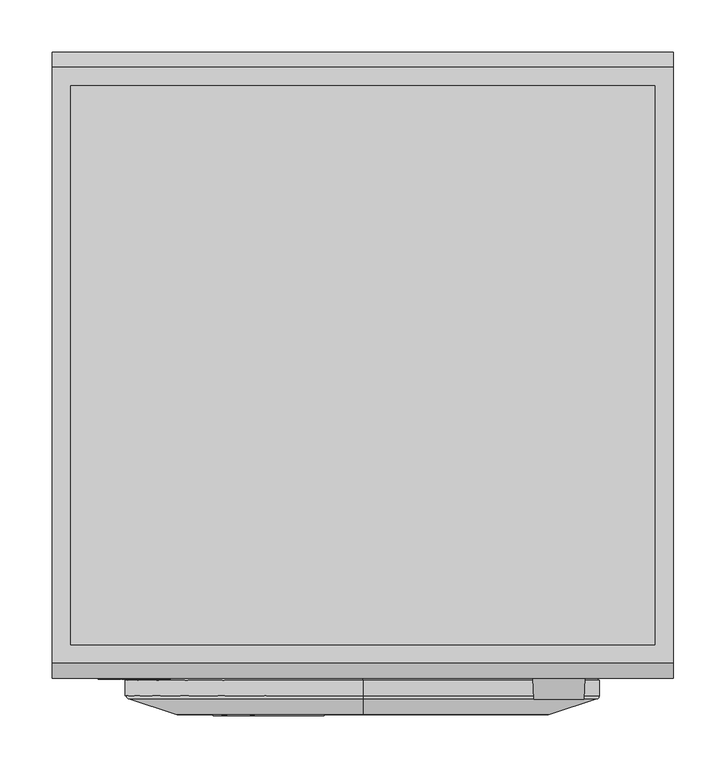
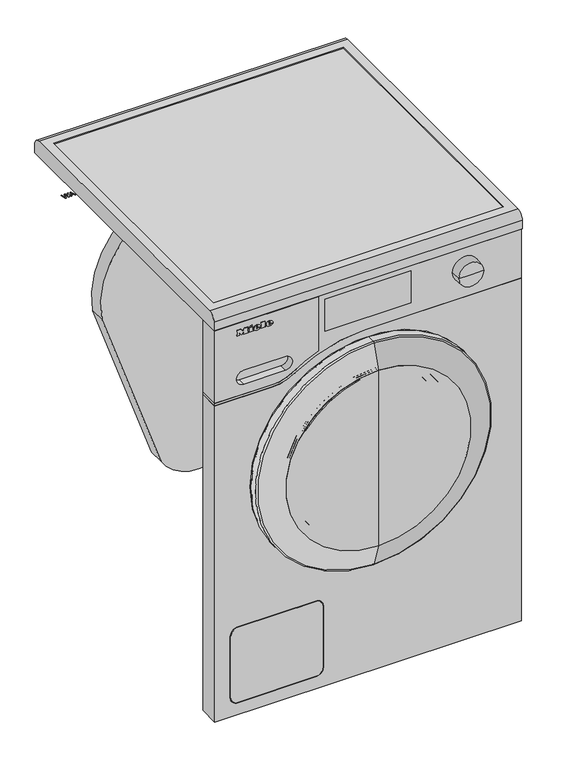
"""IFC4 building model written with IfcOpenShell, lengths in millimetres: proxy geometry, 12721200_GB_WEA125WCS_LW : 11EA1251_GB_12721200_WEA125WCS_LW."""

from ifc_helpers import new_model, si_unit, point, frame, frame_2d, origin, place, context, project, spatial, polyline, circle_curve, ellipse_curve, trimmed, segment, composite_curve, outline, extrude, source, transform, mapped, element, save
from ifc_brep_helpers import plane_surface, cylinder_surface, revolved_surface, extruded_surface, advanced_brep


def specialty_equipment_79eebb6a(model_context):
    return source(origin(), model_context, "Body", "SolidModel", [
        advanced_brep(
        [(-192.212, -601.0, 794.7018), (-192.212, -601.0, 795.8532), (-184.5854, -601.0, 795.8532), (-197.855, -601.0, 795.8532), (-194.72, -601.0, 792.0), (-184.7792, -601.0, 794.7018), (-188.222, -601.0, 794.7018), (-190.9352, -601.0, 793.425), (-192.212, -601.0, 797.3124), (-192.212, -601.0, 798.555), (-190.2626, -601.0, 798.555), (-190.2626, -601.0, 797.3124), (-192.212, -600.0, 794.7018), (-190.9352, -600.0, 793.425), (-188.222, -600.0, 794.7018), (-184.7792, -600.0, 794.7018), (-194.72, -600.0, 792.0), (-197.855, -600.0, 795.8532), (-184.5854, -600.0, 795.8532), (-192.212, -600.0, 795.8532), (-192.212, -600.0, 797.3124), (-190.2626, -600.0, 797.3124), (-190.2626, -600.0, 798.555), (-192.212, -600.0, 798.555)],
        [
            (0, 1),
            (1, 2),
            (2, 3, ellipse_curve(frame((-191.2202, -601.0, 795.8532), z_axis=(0.0, -1.0, 0.0), x_axis=(-1.0, 0.0, 0.0)), 6.6348, 5.4834)),
            (3, 4, circle_curve(frame((-193.4431378, -601.0, 796.2408), z_axis=(0.0, -1.0, 0.0), x_axis=(0.0, 0.0, -1.0)), 4.4288556)),
            (4, 5, circle_curve(frame((-191.3530192, -601.0, 799.2504), z_axis=(0.0, -1.0, 0.0), x_axis=(0.0, 0.0, -1.0)), 7.9940516)),
            (5, 6),
            (6, 7, circle_curve(frame((-190.3779412, -601.0, 795.762), z_axis=(0.0, 1.0, 0.0), x_axis=(0.0, 0.0, -1.0)), 2.4025208)),
            (7, 0, circle_curve(frame((-190.9352, -601.0, 794.7018), z_axis=(0.0, 1.0, 0.0), x_axis=(0.0, 0.0, -1.0)), 1.2768)),
            (8, 9),
            (9, 10, circle_curve(frame((-191.2373, -601.0, 798.555), z_axis=(0.0, 1.0, 0.0), x_axis=(0.0, 0.0, -1.0)), 0.9747)),
            (10, 11),
            (11, 8),
            (12, 13, circle_curve(frame((-190.9352, -600.0, 794.7018), z_axis=(0.0, -1.0, 0.0), x_axis=(0.0, 0.0, -1.0)), 1.2768)),
            (13, 14, circle_curve(frame((-190.3779412, -600.0, 795.762), z_axis=(0.0, -1.0, 0.0), x_axis=(0.0, 0.0, -1.0)), 2.4025208)),
            (14, 15),
            (15, 16, circle_curve(frame((-191.3530192, -600.0, 799.2504), z_axis=(0.0, 1.0, 0.0), x_axis=(0.0, 0.0, -1.0)), 7.9940516)),
            (16, 17, circle_curve(frame((-193.4431378, -600.0, 796.2408), z_axis=(0.0, 1.0, 0.0), x_axis=(0.0, 0.0, -1.0)), 4.4288556)),
            (17, 18, ellipse_curve(frame((-191.2202, -600.0, 795.8532), z_axis=(0.0, 1.0, 0.0), x_axis=(-1.0, 0.0, 0.0)), 6.6348, 5.4834)),
            (18, 19),
            (19, 12),
            (20, 21),
            (21, 22),
            (22, 23, circle_curve(frame((-191.2373, -600.0, 798.555), z_axis=(0.0, -1.0, 0.0), x_axis=(0.0, 0.0, -1.0)), 0.9747)),
            (23, 20),
            (0, 12),
            (19, 1),
            (18, 2),
            (5, 15),
            (14, 6),
            (17, 3),
            (13, 7),
            (16, 4),
            (8, 20),
            (23, 9),
            (22, 10),
            (21, 11),
        ],
        [
            plane_surface(frame((-192.212, -601.0, 795.8532), z_axis=(0.0, -1.0, 0.0), x_axis=(0.0, 0.0, 1.0))),
            plane_surface(frame((-192.212, -600.0, 795.8532), z_axis=(0.0, 1.0, 0.0), x_axis=(0.0, 0.0, -1.0))),
            plane_surface(frame((-192.212, -601.0, 794.7018), z_axis=(1.0, 0.0, 0.0), x_axis=(0.0, 1.0, 0.0))),
            plane_surface(frame((-192.212, -601.0, 795.8532), z_axis=(0.0, 0.0, -1.0), x_axis=(0.0, 1.0, 0.0))),
            plane_surface(frame((-184.7792, -601.0, 794.7018), z_axis=(0.0, 0.0, 1.0), x_axis=(0.0, 1.0, 0.0))),
            extruded_surface(trimmed(ellipse_curve(frame((-191.2202, -599.0, 795.8532), z_axis=(0.0, -1.0, 0.0), x_axis=(-1.0, 0.0, 0.0)), 6.6348, 5.4834), [point((-184.5854, -599.0, 795.8532))], [point((-197.855, -599.0, 795.8532))], True, "CARTESIAN"), (0.0, -1.0, 0.0), 1.0),
            revolved_surface(polyline([(-190.3779412, -600.0, 793.3594791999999), (-190.3779412, -601.0, 793.3594791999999)]), (-190.3779412, -600.0, 795.762), (0.0, 1.0, 0.0)),
            revolved_surface(polyline([(-190.9352, -600.0, 793.4250000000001), (-190.9352, -601.0, 793.4250000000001)]), (-190.9352, -600.0, 794.7018), (0.0, 1.0, 0.0)),
            cylinder_surface(frame((-193.4431378, -600.0, 796.2408), z_axis=(0.0, -1.0, 0.0), x_axis=(0.0, 0.0, -1.0)), 4.4288556),
            cylinder_surface(frame((-191.3530192, -600.0, 799.2504), z_axis=(0.0, -1.0, 0.0), x_axis=(0.0, 0.0, -1.0)), 7.9940516),
            plane_surface(frame((-192.212, -601.0, 797.3124), z_axis=(1.0, 0.0, 0.0), x_axis=(0.0, 1.0, 0.0))),
            revolved_surface(polyline([(-191.2373, -600.0, 797.5803), (-191.2373, -601.0, 797.5803)]), (-191.2373, -600.0, 798.555), (0.0, 1.0, 0.0)),
            plane_surface(frame((-190.2626, -601.0, 798.555), z_axis=(-1.0, 0.0, 0.0), x_axis=(0.0, 1.0, 0.0))),
            plane_surface(frame((-190.2626, -601.0, 797.3124), z_axis=(0.0, 0.0, 1.0), x_axis=(0.0, 1.0, 0.0))),
        ],
        [
            (0, [[1, 2, 3, 4, 5, 6, 7, 8], [9, 10, 11, 12]]),
            (1, [[13, 14, 15, 16, 17, 18, 19, 20], [21, 22, 23, 24]]),
            (2, [[-1, 25, -20, 26]]),
            (3, [[-2, -26, -19, 27]]),
            (4, [[-6, 28, -15, 29]]),
            (5, [[-3, -27, -18, 30]]),
            (6, [[-7, -29, -14, 31]]),
            (7, [[-8, -31, -13, -25]]),
            (8, [[-4, -30, -17, 32]]),
            (9, [[-5, -32, -16, -28]]),
            (10, [[-9, 33, -24, 34]]),
            (11, [[-10, -34, -23, 35]]),
            (12, [[-11, -35, -22, 36]]),
            (13, [[-12, -36, -21, -33]]),
        ],
    ),
        advanced_brep(
        [(-216.0038, -601.0, 794.7018), (-216.0038, -601.0, 795.8532), (-208.3772, -601.0, 795.8532), (-221.6468, -601.0, 795.8532), (-218.5118, -601.0, 792.0), (-208.571, -601.0, 794.7018), (-212.0138, -601.0, 794.7018), (-214.727, -601.0, 793.425), (-216.0038, -601.0, 797.3124), (-216.0038, -601.0, 798.555), (-214.0544, -601.0, 798.555), (-214.0544, -601.0, 797.3124), (-216.0038, -600.0, 794.7018), (-214.727, -600.0, 793.425), (-212.0138, -600.0, 794.7018), (-208.571, -600.0, 794.7018), (-218.5118, -600.0, 792.0), (-221.6468, -600.0, 795.8532), (-208.3772, -600.0, 795.8532), (-216.0038, -600.0, 795.8532), (-216.0038, -600.0, 797.3124), (-214.0544, -600.0, 797.3124), (-214.0544, -600.0, 798.555), (-216.0038, -600.0, 798.555)],
        [
            (0, 1),
            (1, 2),
            (2, 3, ellipse_curve(frame((-215.012, -601.0, 795.8532), z_axis=(0.0, -1.0, 0.0), x_axis=(-1.0, 0.0, 0.0)), 6.6348, 5.4834)),
            (3, 4, circle_curve(frame((-217.2349378, -601.0, 796.2408), z_axis=(0.0, -1.0, 0.0), x_axis=(0.0, 0.0, -1.0)), 4.4288556)),
            (4, 5, circle_curve(frame((-215.1448192, -601.0, 799.2504), z_axis=(0.0, -1.0, 0.0), x_axis=(0.0, 0.0, -1.0)), 7.9940516)),
            (5, 6),
            (6, 7, circle_curve(frame((-214.1697412, -601.0, 795.762), z_axis=(0.0, 1.0, 0.0), x_axis=(0.0, 0.0, -1.0)), 2.4025208)),
            (7, 0, circle_curve(frame((-214.727, -601.0, 794.7018), z_axis=(0.0, 1.0, 0.0), x_axis=(0.0, 0.0, -1.0)), 1.2768)),
            (8, 9),
            (9, 10, circle_curve(frame((-215.0291, -601.0, 798.555), z_axis=(0.0, 1.0, 0.0), x_axis=(0.0, 0.0, -1.0)), 0.9747)),
            (10, 11),
            (11, 8),
            (12, 13, circle_curve(frame((-214.727, -600.0, 794.7018), z_axis=(0.0, -1.0, 0.0), x_axis=(0.0, 0.0, -1.0)), 1.2768)),
            (13, 14, circle_curve(frame((-214.1697412, -600.0, 795.762), z_axis=(0.0, -1.0, 0.0), x_axis=(0.0, 0.0, -1.0)), 2.4025208)),
            (14, 15),
            (15, 16, circle_curve(frame((-215.1448192, -600.0, 799.2504), z_axis=(0.0, 1.0, 0.0), x_axis=(0.0, 0.0, -1.0)), 7.9940516)),
            (16, 17, circle_curve(frame((-217.2349378, -600.0, 796.2408), z_axis=(0.0, 1.0, 0.0), x_axis=(0.0, 0.0, -1.0)), 4.4288556)),
            (17, 18, ellipse_curve(frame((-215.012, -600.0, 795.8532), z_axis=(0.0, 1.0, 0.0), x_axis=(-1.0, 0.0, 0.0)), 6.6348, 5.4834)),
            (18, 19),
            (19, 12),
            (20, 21),
            (21, 22),
            (22, 23, circle_curve(frame((-215.0291, -600.0, 798.555), z_axis=(0.0, -1.0, 0.0), x_axis=(0.0, 0.0, -1.0)), 0.9747)),
            (23, 20),
            (0, 12),
            (19, 1),
            (18, 2),
            (5, 15),
            (14, 6),
            (17, 3),
            (13, 7),
            (16, 4),
            (8, 20),
            (23, 9),
            (22, 10),
            (21, 11),
        ],
        [
            plane_surface(frame((-216.0038, -601.0, 795.8532), z_axis=(0.0, -1.0, 0.0), x_axis=(0.0, 0.0, 1.0))),
            plane_surface(frame((-216.0038, -600.0, 795.8532), z_axis=(0.0, 1.0, 0.0), x_axis=(0.0, 0.0, -1.0))),
            plane_surface(frame((-216.0038, -601.0, 794.7018), z_axis=(1.0, 0.0, 0.0), x_axis=(0.0, 1.0, 0.0))),
            plane_surface(frame((-216.0038, -601.0, 795.8532), z_axis=(0.0, 0.0, -1.0), x_axis=(0.0, 1.0, 0.0))),
            plane_surface(frame((-208.571, -601.0, 794.7018), z_axis=(0.0, 0.0, 1.0), x_axis=(0.0, 1.0, 0.0))),
            extruded_surface(trimmed(ellipse_curve(frame((-215.012, -599.0, 795.8532), z_axis=(0.0, -1.0, 0.0), x_axis=(-1.0, 0.0, 0.0)), 6.6348, 5.4834), [point((-208.3772, -599.0, 795.8532))], [point((-221.6468, -599.0, 795.8532))], True, "CARTESIAN"), (0.0, -1.0, 0.0), 1.0),
            revolved_surface(polyline([(-214.1697412, -600.0, 793.3594791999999), (-214.1697412, -601.0, 793.3594791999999)]), (-214.1697412, -600.0, 795.762), (0.0, 1.0, 0.0)),
            revolved_surface(polyline([(-214.727, -600.0, 793.4250000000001), (-214.727, -601.0, 793.4250000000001)]), (-214.727, -600.0, 794.7018), (0.0, 1.0, 0.0)),
            cylinder_surface(frame((-217.2349378, -600.0, 796.2408), z_axis=(0.0, -1.0, 0.0), x_axis=(0.0, 0.0, -1.0)), 4.4288556),
            cylinder_surface(frame((-215.1448192, -600.0, 799.2504), z_axis=(0.0, -1.0, 0.0), x_axis=(0.0, 0.0, -1.0)), 7.9940516),
            plane_surface(frame((-216.0038, -601.0, 797.3124), z_axis=(1.0, 0.0, 0.0), x_axis=(0.0, 1.0, 0.0))),
            revolved_surface(polyline([(-215.0291, -600.0, 797.5803), (-215.0291, -601.0, 797.5803)]), (-215.0291, -600.0, 798.555), (0.0, 1.0, 0.0)),
            plane_surface(frame((-214.0544, -601.0, 798.555), z_axis=(-1.0, 0.0, 0.0), x_axis=(0.0, 1.0, 0.0))),
            plane_surface(frame((-214.0544, -601.0, 797.3124), z_axis=(0.0, 0.0, 1.0), x_axis=(0.0, 1.0, 0.0))),
        ],
        [
            (0, [[1, 2, 3, 4, 5, 6, 7, 8], [9, 10, 11, 12]]),
            (1, [[13, 14, 15, 16, 17, 18, 19, 20], [21, 22, 23, 24]]),
            (2, [[-1, 25, -20, 26]]),
            (3, [[-2, -26, -19, 27]]),
            (4, [[-6, 28, -15, 29]]),
            (5, [[-3, -27, -18, 30]]),
            (6, [[-7, -29, -14, 31]]),
            (7, [[-8, -31, -13, -25]]),
            (8, [[-4, -30, -17, 32]]),
            (9, [[-5, -32, -16, -28]]),
            (10, [[-9, 33, -24, 34]]),
            (11, [[-10, -34, -23, 35]]),
            (12, [[-11, -35, -22, 36]]),
            (13, [[-12, -36, -21, -33]]),
        ],
    ),
        extrude(outline(polyline([(802.7274, -228.464), (800.8806, -227.5976), (802.6818, -223.733), (804.5286, -224.588), (802.7274, -228.464)])), frame((0.0, -601.0, 0.0), z_axis=(0.0, 1.0, 0.0), x_axis=(0.0, 0.0, 1.0)), (0.0, 0.0, 1.0), 1.0),
        extrude(outline(polyline([(800.6298, -231.2798), (798.5892, -231.2798), (798.5892, -229.9232), (793.9152, -229.9232), (793.9152, -231.2798), (792.0, -231.2798), (792.0, -222.2852), (793.9152, -222.2852), (793.9152, -223.6076), (800.6298, -223.6076), (800.6298, -231.2798)])), frame((0.0, -601.0, 0.0), z_axis=(0.0, 1.0, 0.0), x_axis=(0.0, 0.0, 1.0)), (0.0, 0.0, 1.0), 1.0),
        extrude(outline(polyline([(801.5418, -207.7388), (801.5418, -206.3708), (793.9152, -206.3708), (793.9152, -207.7388), (792.0, -207.7388), (792.0, -198.4934), (793.9152, -198.4934), (793.9152, -199.8956), (803.4, -199.8956), (803.4, -207.7388), (801.5418, -207.7388)])), frame((0.0, -601.0, 0.0), z_axis=(0.0, 1.0, 0.0), x_axis=(0.0, 0.0, 1.0)), (0.0, 0.0, 1.0), 1.0),
        extrude(outline(polyline([(801.5418, -254.0), (801.5418, -252.6206), (793.9152, -252.6206), (793.9152, -254.0), (792.0, -254.0), (792.0, -248.984), (793.9152, -248.984), (793.9152, -250.352), (798.7429247, -250.352), (792.0, -245.2562), (798.9402223, -240.1376), (793.9152, -240.1376), (793.9152, -241.5398), (792.0, -241.5398), (792.0, -232.4426), (793.9152, -232.4426), (793.9152, -233.8904), (801.5418, -233.8904), (801.5418, -232.4426), (803.4, -232.4426), (803.4, -239.3852), (799.125, -242.714), (803.4, -246.0542), (803.4, -254.0), (801.5418, -254.0)])), frame((0.0, -601.0, 0.0), z_axis=(0.0, 1.0, 0.0), x_axis=(0.0, 0.0, 1.0)), (0.0, 0.0, 1.0), 1.0),
        extrude(outline(composite_curve([segment(trimmed(circle_curve(frame_2d((475.0, 0.0)), 179.0077488), [point((650.0572384, -37.3996979))], [point((581.8669772, -143.6078804))], False, "CARTESIAN"), True, "CONTINUOUS"), segment(polyline([(581.8669772, -143.6078804), (580.6729844, -142.0033925)]), True, "CONTINUOUS"), segment(trimmed(circle_curve(frame_2d((475.0, 0.0)), 177.0077488), [point((580.6729844, -142.0033925))], [point((648.1013763, -36.9818423))], True, "CARTESIAN"), True, "CONTINUOUS"), segment(polyline([(648.1013763, -36.9818423), (650.0572384, -37.3996979)]), True, "CONTINUOUS")], self_intersect=False)), frame((0.0, -636.0, 0.0), z_axis=(0.0, 1.0, 0.0), x_axis=(0.0, 0.0, 1.0)), (0.0, 0.0, 1.0), 1.0),
        advanced_brep(
        [(0.0, -610.8709778, 313.0), (0.0, -610.8709778, 637.0), (0.0, -592.0, 637.0), (0.0, -592.0, 313.0), (0.0, -628.93239, 652.7005461), (0.0, -628.93239, 297.2994539), (0.0, -630.9005671, 650.4364173), (0.0, -630.9005671, 299.5635827), (0.0, -592.0, 326.0), (0.0, -592.0, 624.0), (0.0, -589.0, 326.0), (0.0, -589.0, 624.0), (0.0, -589.0, 475.0), (0.0, -635.0, 296.0), (0.0, -635.0, 654.0), (0.0, -635.0, 475.0)],
        [
            (0, 1, circle_curve(frame((0.0, -610.8709778, 475.0), z_axis=(0.0, 1.0, 0.0), x_axis=(0.0, 0.0, 1.0)), 162.0)),
            (1, 2),
            (2, 3, circle_curve(frame((0.0, -592.0, 475.0), z_axis=(0.0, -1.0, 0.0), x_axis=(0.0, 0.0, 1.0)), 162.0)),
            (3, 0),
            (4, 5, circle_curve(frame((0.0, -628.93239, 475.0), z_axis=(0.0, 1.0, 0.0), x_axis=(0.0, 0.0, 1.0)), 177.7005461)),
            (5, 0),
            (0, 1, circle_curve(frame((0.0, -610.8709778, 475.0), z_axis=(0.0, -1.0, 0.0), x_axis=(0.0, 0.0, 1.0)), 162.0)),
            (1, 4),
            (6, 7, circle_curve(frame((0.0, -630.9005671, 475.0), z_axis=(0.0, 1.0, 0.0), x_axis=(0.0, 0.0, 1.0)), 175.4364173)),
            (7, 5),
            (4, 6),
            (2, 3, circle_curve(frame((0.0, -592.0, 475.0), z_axis=(0.0, 1.0, 0.0), x_axis=(0.0, 0.0, 1.0)), 162.0)),
            (3, 8),
            (8, 9, circle_curve(frame((0.0, -592.0, 475.0), z_axis=(0.0, -1.0, 0.0), x_axis=(0.0, 0.0, 1.0)), 149.0)),
            (9, 2),
            (10, 11, circle_curve(frame((0.0, -589.0, 475.0), z_axis=(0.0, 1.0, 0.0), x_axis=(0.0, 0.0, 1.0)), 149.0)),
            (11, 12),
            (12, 10),
            (8, 9, circle_curve(frame((0.0, -592.0, 475.0), z_axis=(0.0, 1.0, 0.0), x_axis=(0.0, 0.0, 1.0)), 149.0)),
            (9, 11),
            (10, 8),
            (13, 14, circle_curve(frame((0.0, -635.0, 475.0), z_axis=(0.0, 1.0, 0.0), x_axis=(0.0, 0.0, 1.0)), 179.0)),
            (14, 6),
            (6, 7, circle_curve(frame((0.0, -630.9005671, 475.0), z_axis=(0.0, -1.0, 0.0), x_axis=(0.0, 0.0, 1.0)), 175.4364173)),
            (7, 13),
            (14, 13, circle_curve(frame((0.0, -635.0, 475.0), z_axis=(0.0, 1.0, 0.0), x_axis=(0.0, 0.0, 1.0)), 179.0)),
            (15, 14),
            (13, 15),
            (11, 10, circle_curve(frame((0.0, -589.0, 475.0), z_axis=(0.0, 1.0, 0.0), x_axis=(0.0, 0.0, 1.0)), 149.0)),
            (5, 4, circle_curve(frame((0.0, -628.93239, 475.0), z_axis=(0.0, 1.0, 0.0), x_axis=(0.0, 0.0, 1.0)), 177.7005461)),
        ],
        [
            cylinder_surface(frame((0.0, -2342.7556811, 475.0), z_axis=(0.0, -1.0, 0.0), x_axis=(0.0, 0.0, 1.0)), 162.0),
            revolved_surface(polyline([(0.0, -610.8709778, 637.0), (0.0, -628.93239, 652.7005461)]), (0.0, -2342.7556811, 475.0), (0.0, -1.0, 0.0)),
            revolved_surface(polyline([(0.0, -628.93239, 652.7005461), (0.0, -630.9005671, 650.4364173)]), (0.0, -2342.7556811, 475.0), (0.0, -1.0, 0.0)),
            plane_surface(frame((0.0, -592.0, 475.0), z_axis=(0.0, 1.0, 0.0), x_axis=(0.0, 0.0, 1.0))),
            plane_surface(frame((0.0, -589.0, 475.0), z_axis=(0.0, 1.0, 0.0), x_axis=(0.0, 0.0, 1.0))),
            cylinder_surface(frame((0.0, -2342.7556811, 475.0), z_axis=(0.0, -1.0, 0.0), x_axis=(0.0, 0.0, 1.0)), 149.0),
            revolved_surface(polyline([(0.0, -630.9005671, 650.4364173), (0.0, -635.0, 654.0)]), (0.0, -2342.7556811, 475.0), (0.0, -1.0, 0.0)),
            plane_surface(frame((0.0, -635.0, 475.0), z_axis=(0.0, -1.0, 0.0), x_axis=(0.0, 0.0, 1.0))),
        ],
        [
            (0, [[1, 2, 3, 4]]),
            (1, [[5, 6, 7, 8]]),
            (2, [[9, 10, -5, 11]]),
            (3, [[12, 13, 14, 15]]),
            (4, [[16, 17, 18]]),
            (5, [[19, 20, -16, 21]]),
            (6, [[22, 23, 24, 25]]),
            (6, [[26, -25, -9, -23]]),
            (7, [[27, -22, 28]]),
            (7, [[-28, -26, -27]]),
            (4, [[29, -18, -17]]),
            (5, [[-14, -21, -29, -20]]),
            (3, [[-3, -15, -19, -13]]),
            (0, [[-7, -4, -12, -2]]),
            (1, [[30, -8, -1, -6]]),
            (2, [[-24, -11, -30, -10]]),
        ],
    ),
        advanced_brep(
        [(0.0, -602.0, 313.0), (0.0, -602.0, 637.0), (0.0, -602.0, 702.0), (0.0, -602.0, 248.0), (0.0, -592.0, 326.0), (0.0, -592.0, 624.0), (0.0, -592.0, 637.0), (0.0, -592.0, 313.0), (0.0, -589.0, 326.0), (0.0, -589.0, 624.0), (0.0, -589.0, 254.0), (0.0, -589.0, 696.0)],
        [
            (0, 1, circle_curve(frame((0.0, -602.0, 475.0), z_axis=(0.0, 1.0, 0.0), x_axis=(0.0, 0.0, 1.0)), 162.0)),
            (1, 2),
            (2, 3, circle_curve(frame((0.0, -602.0, 475.0), z_axis=(0.0, -1.0, 0.0), x_axis=(0.0, 0.0, 1.0)), 227.0)),
            (3, 0),
            (4, 5, circle_curve(frame((0.0, -592.0, 475.0), z_axis=(0.0, 1.0, 0.0), x_axis=(0.0, 0.0, 1.0)), 149.0)),
            (5, 6),
            (6, 7, circle_curve(frame((0.0, -592.0, 475.0), z_axis=(0.0, -1.0, 0.0), x_axis=(0.0, 0.0, 1.0)), 162.0)),
            (7, 4),
            (5, 4, circle_curve(frame((0.0, -592.0, 475.0), z_axis=(0.0, 1.0, 0.0), x_axis=(0.0, 0.0, 1.0)), 149.0)),
            (7, 6, circle_curve(frame((0.0, -592.0, 475.0), z_axis=(0.0, -1.0, 0.0), x_axis=(0.0, 0.0, 1.0)), 162.0)),
            (8, 9, circle_curve(frame((0.0, -589.0, 475.0), z_axis=(0.0, 1.0, 0.0), x_axis=(0.0, 0.0, 1.0)), 149.0)),
            (9, 5),
            (4, 8),
            (2, 3, circle_curve(frame((0.0, -602.0, 475.0), z_axis=(0.0, 1.0, 0.0), x_axis=(0.0, 0.0, 1.0)), 227.0)),
            (3, 10),
            (10, 11, circle_curve(frame((0.0, -589.0, 475.0), z_axis=(0.0, -1.0, 0.0), x_axis=(0.0, 0.0, 1.0)), 221.0)),
            (11, 2),
            (10, 11, circle_curve(frame((0.0, -589.0, 475.0), z_axis=(0.0, 1.0, 0.0), x_axis=(0.0, 0.0, 1.0)), 221.0)),
            (11, 9),
            (8, 10),
            (8, 9, circle_curve(frame((0.0, -589.0, 475.0), z_axis=(0.0, -1.0, 0.0), x_axis=(0.0, 0.0, 1.0)), 149.0)),
            (1, 0, circle_curve(frame((0.0, -602.0, 475.0), z_axis=(0.0, 1.0, 0.0), x_axis=(0.0, 0.0, 1.0)), 162.0)),
            (6, 1),
            (0, 7),
        ],
        [
            plane_surface(frame((0.0, -602.0, 475.0), z_axis=(0.0, -1.0, 0.0), x_axis=(0.0, 0.0, 1.0))),
            plane_surface(frame((0.0, -592.0, 475.0), z_axis=(0.0, -1.0, 0.0), x_axis=(0.0, 0.0, 1.0))),
            revolved_surface(polyline([(0.0, -592.0, 624.0), (0.0, -589.0, 624.0)]), (0.0, -2342.7556811, 475.0), (0.0, -1.0, 0.0)),
            revolved_surface(polyline([(0.0, -589.0, 696.0), (0.0, -602.0, 702.0)]), (0.0, -2342.7556811, 475.0), (0.0, -1.0, 0.0)),
            plane_surface(frame((0.0, -589.0, 475.0), z_axis=(0.0, 1.0, 0.0), x_axis=(0.0, 0.0, 1.0))),
            revolved_surface(polyline([(0.0, -602.0, 637.0), (0.0, -592.0, 637.0)]), (0.0, -2342.7556811, 475.0), (0.0, -1.0, 0.0)),
        ],
        [
            (0, [[1, 2, 3, 4]]),
            (1, [[5, 6, 7, 8]]),
            (1, [[9, -8, 10, -6]]),
            (2, [[11, 12, -5, 13]]),
            (3, [[14, 15, 16, 17]]),
            (4, [[18, 19, -11, 20]]),
            (4, [[-16, -20, 21, -19]]),
            (3, [[-3, -17, -18, -15]]),
            (0, [[22, -4, -14, -2]]),
            (5, [[-7, 23, -1, 24]]),
            (5, [[-10, -24, -22, -23]]),
            (2, [[-21, -13, -9, -12]]),
        ],
    ),
        advanced_brep(
        [(0.0, -602.0, 313.0), (0.0, -602.0, 637.0), (0.0, -610.8709778, 637.0), (0.0, -610.8709778, 313.0), (0.0, -602.0, 310.0), (0.0, -602.0, 640.0), (0.0, -609.7493238, 310.0), (0.0, -609.7493238, 640.0), (0.0, -628.93239, 297.2994539), (0.0, -628.93239, 652.7005461), (0.0, -626.9642129, 654.9646748), (0.0, -626.9642129, 295.0353252)],
        [
            (0, 1, circle_curve(frame((0.0, -602.0, 475.0), z_axis=(0.0, 1.0, 0.0), x_axis=(0.0, 0.0, 1.0)), 162.0)),
            (1, 2),
            (2, 3, circle_curve(frame((0.0, -610.8709778, 475.0), z_axis=(0.0, -1.0, 0.0), x_axis=(0.0, 0.0, 1.0)), 162.0)),
            (3, 0),
            (4, 5, circle_curve(frame((0.0, -602.0, 475.0), z_axis=(0.0, 1.0, 0.0), x_axis=(0.0, 0.0, 1.0)), 165.0)),
            (5, 1),
            (0, 4),
            (6, 7, circle_curve(frame((0.0, -609.7493238, 475.0), z_axis=(0.0, 1.0, 0.0), x_axis=(0.0, 0.0, 1.0)), 165.0)),
            (7, 5),
            (4, 6),
            (2, 3, circle_curve(frame((0.0, -610.8709778, 475.0), z_axis=(0.0, 1.0, 0.0), x_axis=(0.0, 0.0, 1.0)), 162.0)),
            (3, 8),
            (8, 9, circle_curve(frame((0.0, -628.93239, 475.0), z_axis=(0.0, -1.0, 0.0), x_axis=(0.0, 0.0, 1.0)), 177.7005461)),
            (9, 2),
            (8, 9, circle_curve(frame((0.0, -628.93239, 475.0), z_axis=(0.0, 1.0, 0.0), x_axis=(0.0, 0.0, 1.0)), 177.7005461)),
            (9, 10),
            (10, 11, circle_curve(frame((0.0, -626.9642129, 475.0), z_axis=(0.0, -1.0, 0.0), x_axis=(0.0, 0.0, 1.0)), 179.9646748)),
            (11, 8),
            (11, 10, circle_curve(frame((0.0, -626.9642129, 475.0), z_axis=(0.0, -1.0, 0.0), x_axis=(0.0, 0.0, 1.0)), 179.9646748)),
            (1, 0, circle_curve(frame((0.0, -602.0, 475.0), z_axis=(0.0, 1.0, 0.0), x_axis=(0.0, 0.0, 1.0)), 162.0)),
            (10, 7),
            (6, 11),
            (6, 7, circle_curve(frame((0.0, -609.7493238, 475.0), z_axis=(0.0, -1.0, 0.0), x_axis=(0.0, 0.0, 1.0)), 165.0)),
            (5, 4, circle_curve(frame((0.0, -602.0, 475.0), z_axis=(0.0, 1.0, 0.0), x_axis=(0.0, 0.0, 1.0)), 165.0)),
        ],
        [
            revolved_surface(polyline([(0.0, -610.8709778, 637.0), (0.0, -602.0, 637.0)]), (0.0, -2342.7556811, 475.0), (0.0, -1.0, 0.0)),
            plane_surface(frame((0.0, -602.0, 475.0), z_axis=(0.0, 1.0, 0.0), x_axis=(0.0, 0.0, 1.0))),
            cylinder_surface(frame((0.0, -2342.7556811, 475.0), z_axis=(0.0, -1.0, 0.0), x_axis=(0.0, 0.0, 1.0)), 165.0),
            revolved_surface(polyline([(0.0, -628.93239, 652.7005461), (0.0, -610.8709778, 637.0)]), (0.0, -2342.7556811, 475.0), (0.0, -1.0, 0.0)),
            revolved_surface(polyline([(0.0, -626.9642129, 654.9646748), (0.0, -628.93239, 652.7005461)]), (0.0, -2342.7556811, 475.0), (0.0, -1.0, 0.0)),
            revolved_surface(polyline([(0.0, -609.7493238, 640.0), (0.0, -626.9642129, 654.9646748)]), (0.0, -2342.7556811, 475.0), (0.0, -1.0, 0.0)),
        ],
        [
            (0, [[1, 2, 3, 4]]),
            (1, [[5, 6, -1, 7]]),
            (2, [[8, 9, -5, 10]]),
            (3, [[11, 12, 13, 14]]),
            (4, [[15, 16, 17, 18]]),
            (4, [[-13, -18, 19, -16]]),
            (3, [[-3, -14, -15, -12]]),
            (0, [[20, -4, -11, -2]]),
            (5, [[-17, 21, -8, 22]]),
            (5, [[-19, -22, 23, -21]]),
            (1, [[24, -7, -20, -6]]),
            (2, [[-23, -10, -24, -9]]),
        ],
    ),
        advanced_brep(
        [(0.0, -626.9642129, 295.0353252), (0.0, -626.9642129, 654.9646748), (0.0, -630.9005671, 650.4364173), (0.0, -630.9005671, 299.5635827), (0.0, -602.0, 247.0), (0.0, -602.0, 703.0), (0.0, -602.0, 640.0), (0.0, -602.0, 310.0), (0.0, -609.7493238, 640.0), (0.0, -609.7493238, 310.0), (0.0, -635.0, 296.0), (0.0, -635.0, 654.0), (0.0, -616.8993073, 247.0), (0.0, -616.8993073, 703.0), (0.0, -619.7524768, 249.072949), (0.0, -619.7524768, 700.927051)],
        [
            (0, 1, circle_curve(frame((0.0, -626.9642129, 475.0), z_axis=(0.0, 1.0, 0.0), x_axis=(0.0, 0.0, 1.0)), 179.9646748)),
            (1, 2),
            (2, 3, circle_curve(frame((0.0, -630.9005671, 475.0), z_axis=(0.0, -1.0, 0.0), x_axis=(0.0, 0.0, 1.0)), 175.4364173)),
            (3, 0),
            (4, 5, circle_curve(frame((0.0, -602.0, 475.0), z_axis=(0.0, 1.0, 0.0), x_axis=(0.0, 0.0, 1.0)), 228.0)),
            (5, 6),
            (6, 7, circle_curve(frame((0.0, -602.0, 475.0), z_axis=(0.0, -1.0, 0.0), x_axis=(0.0, 0.0, 1.0)), 165.0)),
            (7, 4),
            (6, 8),
            (8, 9, circle_curve(frame((0.0, -609.7493238, 475.0), z_axis=(0.0, -1.0, 0.0), x_axis=(0.0, 0.0, 1.0)), 165.0)),
            (9, 7),
            (2, 3, circle_curve(frame((0.0, -630.9005671, 475.0), z_axis=(0.0, 1.0, 0.0), x_axis=(0.0, 0.0, 1.0)), 175.4364173)),
            (3, 10),
            (10, 11, circle_curve(frame((0.0, -635.0, 475.0), z_axis=(0.0, -1.0, 0.0), x_axis=(0.0, 0.0, 1.0)), 179.0)),
            (11, 2),
            (12, 13, circle_curve(frame((0.0, -616.8993073, 475.0), z_axis=(0.0, 1.0, 0.0), x_axis=(0.0, 0.0, 1.0)), 228.0)),
            (13, 5),
            (4, 12),
            (13, 12, circle_curve(frame((0.0, -616.8993073, 475.0), z_axis=(0.0, 1.0, 0.0), x_axis=(0.0, 0.0, 1.0)), 228.0)),
            (4, 5, circle_curve(frame((0.0, -602.0, 475.0), z_axis=(0.0, -1.0, 0.0), x_axis=(0.0, 0.0, 1.0)), 228.0)),
            (14, 15, circle_curve(frame((0.0, -619.7524768, 475.0), z_axis=(0.0, 1.0, 0.0), x_axis=(0.0, 0.0, 1.0)), 225.927051)),
            (15, 13, circle_curve(frame((0.0, -616.8993073, 700.0), z_axis=(-1.0, 0.0, 0.0), x_axis=(0.0, 1.0, 0.0)), 3.0)),
            (12, 14, circle_curve(frame((0.0, -616.8993073, 250.0), z_axis=(-1.0, 0.0, 0.0), x_axis=(0.0, 1.0, 0.0)), 3.0)),
            (15, 14, circle_curve(frame((0.0, -619.7524768, 475.0), z_axis=(0.0, 1.0, 0.0), x_axis=(0.0, 0.0, 1.0)), 225.927051)),
            (10, 11, circle_curve(frame((0.0, -635.0, 475.0), z_axis=(0.0, 1.0, 0.0), x_axis=(0.0, 0.0, 1.0)), 179.0)),
            (11, 15),
            (14, 10),
            (1, 0, circle_curve(frame((0.0, -626.9642129, 475.0), z_axis=(0.0, 1.0, 0.0), x_axis=(0.0, 0.0, 1.0)), 179.9646748)),
            (8, 1),
            (0, 9),
            (8, 9, circle_curve(frame((0.0, -609.7493238, 475.0), z_axis=(0.0, 1.0, 0.0), x_axis=(0.0, 0.0, 1.0)), 165.0)),
            (7, 6, circle_curve(frame((0.0, -602.0, 475.0), z_axis=(0.0, -1.0, 0.0), x_axis=(0.0, 0.0, 1.0)), 165.0)),
        ],
        [
            revolved_surface(polyline([(0.0, -630.9005671, 650.4364173), (0.0, -626.9642129, 654.9646748)]), (0.0, -2342.7556811, 475.0), (0.0, -1.0, 0.0)),
            plane_surface(frame((0.0, -602.0, 475.0), z_axis=(0.0, 1.0, 0.0), x_axis=(0.0, 0.0, 1.0))),
            revolved_surface(polyline([(0.0, -609.7493238, 640.0), (0.0, -602.0, 640.0)]), (0.0, -2342.7556811, 475.0), (0.0, -1.0, 0.0)),
            revolved_surface(polyline([(0.0, -635.0, 654.0), (0.0, -630.9005671, 650.4364173)]), (0.0, -2342.7556811, 475.0), (0.0, -1.0, 0.0)),
            cylinder_surface(frame((0.0, -2342.7556811, 475.0), z_axis=(0.0, -1.0, 0.0), x_axis=(0.0, 0.0, 1.0)), 228.0),
            revolved_surface(trimmed(ellipse_curve(frame((0.0, -616.8993073, 700.0), z_axis=(1.0, 0.0, 0.0), x_axis=(0.0, 1.0, 0.0)), 3.0, 3.0), [point((0.0, -616.8993073, 703.0))], [point((0.0, -619.7524768, 700.927051))], True, "CARTESIAN"), (0.0, -2342.7556811, 475.0), (0.0, -1.0, 0.0)),
            revolved_surface(polyline([(0.0, -619.7524768, 700.927051), (0.0, -635.0, 654.0)]), (0.0, -2342.7556811, 475.0), (0.0, -1.0, 0.0)),
            revolved_surface(polyline([(0.0, -626.9642129, 654.9646748), (0.0, -609.7493238, 640.0)]), (0.0, -2342.7556811, 475.0), (0.0, -1.0, 0.0)),
        ],
        [
            (0, [[1, 2, 3, 4]]),
            (1, [[5, 6, 7, 8]]),
            (2, [[-7, 9, 10, 11]]),
            (3, [[12, 13, 14, 15]]),
            (4, [[16, 17, -5, 18]]),
            (4, [[19, -18, 20, -17]]),
            (5, [[21, 22, -16, 23]]),
            (5, [[24, -23, -19, -22]]),
            (6, [[25, 26, -21, 27]]),
            (6, [[-14, -27, -24, -26]]),
            (3, [[-3, -15, -25, -13]]),
            (0, [[28, -4, -12, -2]]),
            (7, [[-10, 29, -1, 30]]),
            (7, [[31, -30, -28, -29]]),
            (1, [[-20, -8, 32, -6]]),
            (2, [[-32, -11, -31, -9]]),
        ],
    ),
        advanced_brep(
        [(188.0, -600.0, 775.0), (213.0, -600.0, 775.0), (163.0, -600.0, 775.0), (164.0481556, -620.0, 775.0), (211.9518444, -620.0, 775.0), (188.0, -620.0, 775.0)],
        [
            (0, 1),
            (1, 2, circle_curve(frame((188.0, -600.0, 775.0), z_axis=(0.0, 1.0, 0.0), x_axis=(1.0, 0.0, 0.0)), 25.0)),
            (2, 0),
            (2, 1, circle_curve(frame((188.0, -600.0, 775.0), z_axis=(0.0, 1.0, 0.0), x_axis=(1.0, 0.0, 0.0)), 25.0)),
            (3, 4, circle_curve(frame((188.0, -620.0, 775.0), z_axis=(0.0, -1.0, 0.0), x_axis=(1.0, 0.0, 0.0)), 23.9518444)),
            (4, 5),
            (5, 3),
            (4, 3, circle_curve(frame((188.0, -620.0, 775.0), z_axis=(0.0, -1.0, 0.0), x_axis=(1.0, 0.0, 0.0)), 23.9518444)),
            (1, 4),
            (3, 2),
        ],
        [
            plane_surface(frame((188.0, -600.0, 775.0), z_axis=(0.0, 1.0, 0.0), x_axis=(1.0, 0.0, 0.0))),
            plane_surface(frame((188.0, -620.0, 775.0), z_axis=(0.0, -1.0, 0.0), x_axis=(1.0, 0.0, 0.0))),
            revolved_surface(polyline([(211.9518444, -620.0, 775.0), (213.0, -600.0, 775.0)]), (188.0, -429.2290526, 775.0), (0.0, 1.0, 0.0)),
        ],
        [
            (0, [[1, 2, 3]]),
            (0, [[-3, 4, -1]]),
            (1, [[5, 6, 7]]),
            (1, [[8, -7, -6]]),
            (2, [[-2, 9, -5, 10]]),
            (2, [[-4, -10, -8, -9]]),
        ],
    ),
        advanced_brep(
        [(298.0, -585.5, 850.0), (298.0, -600.0, 835.5), (298.0, -600.0, 818.0), (298.0, 0.0, 818.0), (298.0, 0.0, 835.5), (298.0, -14.5, 850.0), (-298.0, -585.5, 850.0), (-298.0, -14.5, 850.0), (-298.0, 0.0, 835.5), (-298.0, 0.0, 818.0), (-298.0, -600.0, 818.0), (-298.0, -600.0, 835.5), (-280.0, -32.0, 850.0), (280.0, -32.0, 850.0), (280.0, -568.0, 850.0), (-280.0, -568.0, 850.0), (280.0, -32.0, 848.0), (-280.0, -32.0, 848.0), (-280.0, -568.0, 848.0), (280.0, -568.0, 848.0)],
        [
            (0, 1, circle_curve(frame((298.0, -585.5, 835.5), z_axis=(1.0, 0.0, 0.0), x_axis=(0.0, 0.0, -1.0)), 14.5)),
            (1, 2),
            (2, 3),
            (3, 4),
            (4, 5, circle_curve(frame((298.0, -14.5, 835.5), z_axis=(1.0, 0.0, 0.0), x_axis=(0.0, 0.0, -1.0)), 14.5)),
            (5, 0),
            (6, 7),
            (7, 8, circle_curve(frame((-298.0, -14.5, 835.5), z_axis=(-1.0, 0.0, 0.0), x_axis=(0.0, 0.0, -1.0)), 14.5)),
            (8, 9),
            (9, 10),
            (10, 11),
            (11, 6, circle_curve(frame((-298.0, -585.5, 835.5), z_axis=(-1.0, 0.0, 0.0), x_axis=(0.0, 0.0, -1.0)), 14.5)),
            (5, 7),
            (6, 0),
            (12, 13),
            (13, 14),
            (14, 15),
            (15, 12),
            (4, 8),
            (3, 9),
            (2, 10),
            (1, 11),
            (16, 17),
            (17, 18),
            (18, 19),
            (19, 16),
            (16, 13),
            (12, 17),
            (15, 18),
            (14, 19),
        ],
        [
            plane_surface(frame((298.0, -585.5, 850.0), z_axis=(1.0, 0.0, 0.0), x_axis=(0.0, -1.0, 0.0))),
            plane_surface(frame((-298.0, -585.5, 850.0), z_axis=(-1.0, 0.0, 0.0), x_axis=(0.0, 1.0, 0.0))),
            plane_surface(frame((-298.0, -585.5, 850.0), z_axis=(0.0, 0.0, 1.0), x_axis=(1.0, 0.0, 0.0))),
            cylinder_surface(frame((298.0, -14.5, 835.5), z_axis=(-1.0, 0.0, 0.0), x_axis=(0.0, 0.0, -1.0)), 14.5),
            plane_surface(frame((-298.0, 0.0, 835.5), z_axis=(0.0, 1.0, 0.0), x_axis=(1.0, 0.0, 0.0))),
            plane_surface(frame((-298.0, 0.0, 818.0), z_axis=(0.0, 0.0, -1.0), x_axis=(1.0, 0.0, 0.0))),
            plane_surface(frame((-298.0, -600.0, 818.0), z_axis=(0.0, -1.0, 0.0), x_axis=(1.0, 0.0, 0.0))),
            cylinder_surface(frame((298.0, -585.5, 835.5), z_axis=(-1.0, 0.0, 0.0), x_axis=(0.0, 0.0, -1.0)), 14.5),
            plane_surface(frame((-179.0425004, -32.0, 848.0), z_axis=(0.0, 0.0, 1.0), x_axis=(1.0, 0.0, 0.0))),
            plane_surface(frame((280.0, -32.0, 850.0), z_axis=(0.0, -1.0, 0.0), x_axis=(0.0, 0.0, -1.0))),
            plane_surface(frame((-280.0, -32.0, 850.0), z_axis=(1.0, 0.0, 0.0), x_axis=(0.0, 0.0, -1.0))),
            plane_surface(frame((-280.0, -568.0, 850.0), z_axis=(0.0, 1.0, 0.0), x_axis=(0.0, 0.0, -1.0))),
            plane_surface(frame((280.0, -568.0, 850.0), z_axis=(-1.0, 0.0, 0.0), x_axis=(0.0, 0.0, -1.0))),
        ],
        [
            (0, [[1, 2, 3, 4, 5, 6]]),
            (1, [[7, 8, 9, 10, 11, 12]]),
            (2, [[-6, 13, -7, 14], [15, 16, 17, 18]]),
            (3, [[-5, 19, -8, -13]]),
            (4, [[-4, 20, -9, -19]]),
            (5, [[-3, 21, -10, -20]]),
            (6, [[-2, 22, -11, -21]]),
            (7, [[-1, -14, -12, -22]]),
            (8, [[23, 24, 25, 26]]),
            (9, [[-23, 27, -15, 28]]),
            (10, [[-24, -28, -18, 29]]),
            (11, [[-25, -29, -17, 30]]),
            (12, [[-26, -30, -16, -27]]),
        ],
    ),
        extrude(outline(polyline([(-83.0, -570.0), (83.0, -570.0), (83.0, -600.0), (-83.0, -600.0), (-83.0, -570.0)])), frame((0.0, 0.0, 742.0), z_axis=(0.0, 0.0, 1.0), x_axis=(1.0, 0.0, 0.0)), (0.0, 0.0, 1.0), 65.0),
        advanced_brep(
        [(-296.5, -600.0, 664.0), (-185.7266361, -600.0, 664.0), (-145.1722991, -600.0, 675.3673121), (-5.7577941, -600.0, 718.0), (296.5, -600.0, 718.0), (296.5, -600.0, 817.0), (-94.5, -600.0, 817.0), (-94.5, -600.0, 705.9439484), (-147.3302559, -600.0, 678.7366161), (-185.7266361, -600.0, 668.0), (-296.5, -600.0, 668.0), (83.0, -600.0, 807.0), (83.0, -600.0, 742.0), (-83.0, -600.0, 742.0), (-83.0, -600.0, 807.0), (296.5, -560.0, 817.0), (296.5, -560.0, 718.0), (-5.7577941, -560.0, 718.0), (-145.1722991, -560.0, 675.3673121), (-185.7266361, -560.0, 664.0), (-296.5, -560.0, 664.0), (-296.5, -560.0, 668.0), (-185.7266361, -560.0, 668.0), (-147.3302559, -560.0, 678.7366161), (-94.5, -560.0, 705.9439484), (-94.5, -560.0, 817.0), (83.0, -570.0, 807.0), (-83.0, -570.0, 807.0), (-83.0, -570.0, 742.0), (83.0, -570.0, 742.0)],
        [
            (0, 1),
            (1, 2, circle_curve(frame((-185.7266361, -600.0, 742.0250428), z_axis=(0.0, -1.0, 0.0), x_axis=(-1.0, 0.0, 0.0)), 78.0250428)),
            (2, 3, circle_curve(frame((-5.7577941, -600.0, 468.7317583), z_axis=(0.0, 1.0, 0.0), x_axis=(-1.0, 0.0, 0.0)), 249.2682417)),
            (3, 4),
            (4, 5),
            (5, 6),
            (6, 7),
            (7, 8, circle_curve(frame((-5.7577941, -600.0, 468.7317583), z_axis=(0.0, -1.0, 0.0), x_axis=(-1.0, 0.0, 0.0)), 253.2682417)),
            (8, 9, circle_curve(frame((-185.7266361, -600.0, 742.0250428), z_axis=(0.0, 1.0, 0.0), x_axis=(-1.0, 0.0, 0.0)), 74.0250428)),
            (9, 10),
            (10, 0),
            (11, 12),
            (12, 13),
            (13, 14),
            (14, 11),
            (15, 16),
            (16, 17),
            (17, 18, circle_curve(frame((-5.7577941, -560.0, 468.7317583), z_axis=(0.0, -1.0, 0.0), x_axis=(-1.0, 0.0, 0.0)), 249.2682417)),
            (18, 19, circle_curve(frame((-185.7266361, -560.0, 742.0250428), z_axis=(0.0, 1.0, 0.0), x_axis=(-1.0, 0.0, 0.0)), 78.0250428)),
            (19, 20),
            (20, 21),
            (21, 22),
            (22, 23, circle_curve(frame((-185.7266361, -560.0, 742.0250428), z_axis=(0.0, -1.0, 0.0), x_axis=(-1.0, 0.0, 0.0)), 74.0250428)),
            (23, 24, circle_curve(frame((-5.7577941, -560.0, 468.7317583), z_axis=(0.0, 1.0, 0.0), x_axis=(-1.0, 0.0, 0.0)), 253.2682417)),
            (24, 25),
            (25, 15),
            (4, 16),
            (15, 5),
            (25, 6),
            (20, 0),
            (10, 21),
            (3, 17),
            (2, 18),
            (1, 19),
            (24, 7),
            (26, 27),
            (27, 28),
            (28, 29),
            (29, 26),
            (29, 12),
            (11, 26),
            (28, 13),
            (27, 14),
            (23, 8),
            (22, 9),
        ],
        [
            plane_surface(frame((-296.5, -600.0, 817.0), z_axis=(0.0, -1.0, 0.0), x_axis=(0.0, 0.0, -1.0))),
            plane_surface(frame((-296.5, -560.0, 817.0), z_axis=(0.0, 1.0, 0.0), x_axis=(0.0, 0.0, 1.0))),
            plane_surface(frame((296.5, -560.0, 817.0), z_axis=(1.0, 0.0, 0.0), x_axis=(0.0, -1.0, 0.0))),
            plane_surface(frame((-296.5, -560.0, 817.0), z_axis=(0.0, 0.0, 1.0), x_axis=(0.0, -1.0, 0.0))),
            plane_surface(frame((-296.5, -560.0, 664.0), z_axis=(-1.0, 0.0, 0.0), x_axis=(0.0, -1.0, 0.0))),
            plane_surface(frame((296.5, -560.0, 718.0), z_axis=(0.0, 0.0, -1.0), x_axis=(0.0, -1.0, 0.0))),
            revolved_surface(polyline([(-255.02603580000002, -600.0, 468.7317583), (-255.02603580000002, -560.0, 468.7317583)]), (-5.7577941, -600.0, 468.7317583), (0.0, -1.0, 0.0)),
            cylinder_surface(frame((-185.7266361, -600.0, 742.0250428), z_axis=(0.0, 1.0, 0.0), x_axis=(-1.0, 0.0, 0.0)), 78.0250428),
            plane_surface(frame((-185.7266361, -560.0, 664.0), z_axis=(0.0, 0.0, -1.0), x_axis=(0.0, -1.0, 0.0))),
            plane_surface(frame((-94.5, -547.2464252, 852.4552379), z_axis=(-1.0, 0.0, 0.0), x_axis=(0.0, -1.0, 0.0))),
            plane_surface(frame((83.0, -570.0, 807.0), z_axis=(0.0, -1.0, 0.0), x_axis=(0.0, 0.0, -1.0))),
            plane_surface(frame((83.0, -570.0, 807.0), z_axis=(-1.0, 0.0, 0.0), x_axis=(0.0, -1.0, 0.0))),
            plane_surface(frame((83.0, -570.0, 742.0), z_axis=(0.0, 0.0, 1.0), x_axis=(0.0, -1.0, 0.0))),
            plane_surface(frame((-83.0, -570.0, 742.0), z_axis=(1.0, 0.0, 0.0), x_axis=(0.0, -1.0, 0.0))),
            cylinder_surface(frame((-5.7577941, -600.0, 468.7317583), z_axis=(0.0, -1.0, 0.0), x_axis=(-1.0, 0.0, 0.0)), 253.2682417),
            revolved_surface(polyline([(-259.7516789, -560.0, 742.0250428), (-259.7516789, -600.0, 742.0250428)]), (-185.7266361, -600.0, 742.0250428), (0.0, 1.0, 0.0)),
            plane_surface(frame((-185.7266361, -547.2464252, 668.0), z_axis=(0.0, 0.0, 1.0), x_axis=(0.0, -1.0, 0.0))),
            plane_surface(frame((-83.0, -570.0, 807.0), z_axis=(0.0, 0.0, -1.0), x_axis=(0.0, -1.0, 0.0))),
        ],
        [
            (0, [[1, 2, 3, 4, 5, 6, 7, 8, 9, 10, 11], [12, 13, 14, 15]]),
            (1, [[16, 17, 18, 19, 20, 21, 22, 23, 24, 25, 26]]),
            (2, [[-5, 27, -16, 28]]),
            (3, [[-28, -26, 29, -6]]),
            (4, [[30, -11, 31, -21]]),
            (5, [[-4, 32, -17, -27]]),
            (6, [[-3, 33, -18, -32]]),
            (7, [[-2, 34, -19, -33]]),
            (8, [[-1, -30, -20, -34]]),
            (9, [[35, -7, -29, -25]]),
            (10, [[36, 37, 38, 39]]),
            (11, [[-39, 40, -12, 41]]),
            (12, [[-38, 42, -13, -40]]),
            (13, [[-37, 43, -14, -42]]),
            (14, [[-35, -24, 44, -8]]),
            (15, [[-44, -23, 45, -9]]),
            (16, [[-45, -22, -31, -10]]),
            (17, [[-36, -41, -15, -43]]),
        ],
    ),
        advanced_brep(
        [(-95.5, -600.0, 817.0), (-296.5, -600.0, 817.0), (-296.5, -600.0, 669.0), (-185.7266361, -600.0, 669.0), (-147.869315, -600.0, 679.5792254), (-95.5, -600.0, 706.6365191), (-240.5, -600.0, 717.0), (-160.5, -600.0, 717.0), (-160.5, -600.0, 689.0), (-240.5, -600.0, 689.0), (-296.5, -560.0, 669.0), (-296.5, -560.0, 817.0), (-95.5, -560.0, 817.0), (-95.5, -560.0, 706.6365191), (-147.869315, -560.0, 679.5792254), (-185.7266361, -560.0, 669.0), (-160.5, -585.0, 717.0), (-240.5, -585.0, 717.0), (-240.5, -585.0, 689.0), (-160.5, -585.0, 689.0)],
        [
            (0, 1),
            (1, 2),
            (2, 3),
            (3, 4, circle_curve(frame((-185.7266361, -600.0, 742.0250428), z_axis=(0.0, -1.0, 0.0), x_axis=(-1.0, 0.0, 0.0)), 73.0250428)),
            (4, 5, circle_curve(frame((-5.7577941, -600.0, 468.7317583), z_axis=(0.0, 1.0, 0.0), x_axis=(-1.0, 0.0, 0.0)), 254.2682417)),
            (5, 0),
            (6, 7),
            (7, 8, circle_curve(frame((-160.5, -600.0, 703.0), z_axis=(0.0, 1.0, 0.0), x_axis=(-1.0, 0.0, 0.0)), 14.0)),
            (8, 9),
            (9, 6, circle_curve(frame((-240.5, -600.0, 703.0), z_axis=(0.0, 1.0, 0.0), x_axis=(-1.0, 0.0, 0.0)), 14.0)),
            (10, 11),
            (11, 12),
            (12, 13),
            (13, 14, circle_curve(frame((-5.7577941, -560.0, 468.7317583), z_axis=(0.0, -1.0, 0.0), x_axis=(-1.0, 0.0, 0.0)), 254.2682417)),
            (14, 15, circle_curve(frame((-185.7266361, -560.0, 742.0250428), z_axis=(0.0, 1.0, 0.0), x_axis=(-1.0, 0.0, 0.0)), 73.0250428)),
            (15, 10),
            (11, 1),
            (0, 12),
            (10, 2),
            (5, 13),
            (16, 17),
            (17, 18, circle_curve(frame((-240.5, -585.0, 703.0), z_axis=(0.0, -1.0, 0.0), x_axis=(-1.0, 0.0, 0.0)), 14.0)),
            (18, 19),
            (19, 16, circle_curve(frame((-160.5, -585.0, 703.0), z_axis=(0.0, -1.0, 0.0), x_axis=(-1.0, 0.0, 0.0)), 14.0)),
            (16, 7),
            (6, 17),
            (9, 18),
            (8, 19),
            (15, 3),
            (14, 4),
        ],
        [
            plane_surface(frame((-296.5, -600.0, 817.0), z_axis=(0.0, -1.0, 0.0), x_axis=(0.0, 0.0, -1.0))),
            plane_surface(frame((-296.5, -560.0, 817.0), z_axis=(0.0, 1.0, 0.0), x_axis=(0.0, 0.0, 1.0))),
            plane_surface(frame((-296.5, -560.0, 817.0), z_axis=(0.0, 0.0, 1.0), x_axis=(0.0, -1.0, 0.0))),
            plane_surface(frame((-296.5, -560.0, 664.0), z_axis=(-1.0, 0.0, 0.0), x_axis=(0.0, -1.0, 0.0))),
            plane_surface(frame((-95.5, -547.2464252, 706.6365191), z_axis=(1.0, 0.0, 0.0), x_axis=(0.0, -1.0, 0.0))),
            plane_surface(frame((-174.5, -585.0, 703.0), z_axis=(0.0, -1.0, 0.0), x_axis=(0.0, 0.0, 1.0))),
            plane_surface(frame((-240.5, -585.0, 717.0), z_axis=(0.0, 0.0, -1.0), x_axis=(0.0, -1.0, 0.0))),
            revolved_surface(polyline([(-254.5, -585.0, 703.0), (-254.5, -600.0, 703.0)]), (-240.5, -625.7120467, 703.0), (0.0, 1.0, 0.0)),
            plane_surface(frame((-160.5, -585.0, 689.0), z_axis=(0.0, 0.0, 1.0), x_axis=(0.0, -1.0, 0.0))),
            revolved_surface(polyline([(-174.5, -585.0, 703.0), (-174.5, -600.0, 703.0)]), (-160.5, -625.7120467, 703.0), (0.0, 1.0, 0.0)),
            plane_surface(frame((-297.0, -547.2464252, 669.0), z_axis=(0.0, 0.0, -1.0), x_axis=(0.0, -1.0, 0.0))),
            cylinder_surface(frame((-185.7266361, -600.0, 742.0250428), z_axis=(0.0, -1.0, 0.0), x_axis=(-1.0, 0.0, 0.0)), 73.0250428),
            revolved_surface(polyline([(-260.0260358, -560.0, 468.7317583), (-260.0260358, -600.0, 468.7317583)]), (-5.7577941, -600.0, 468.7317583), (0.0, 1.0, 0.0)),
        ],
        [
            (0, [[1, 2, 3, 4, 5, 6], [7, 8, 9, 10]]),
            (1, [[11, 12, 13, 14, 15, 16]]),
            (2, [[17, -1, 18, -12]]),
            (3, [[-17, -11, 19, -2]]),
            (4, [[20, -13, -18, -6]]),
            (5, [[21, 22, 23, 24]]),
            (6, [[-21, 25, -7, 26]]),
            (7, [[-22, -26, -10, 27]]),
            (8, [[-23, -27, -9, 28]]),
            (9, [[-24, -28, -8, -25]]),
            (10, [[29, -3, -19, -16]]),
            (11, [[-29, -15, 30, -4]]),
            (12, [[-30, -14, -20, -5]]),
        ],
    ),
        extrude(outline(composite_curve([segment(polyline([(182.0, -265.5), (57.0, -265.5)]), True, "CONTINUOUS"), segment(trimmed(circle_curve(frame_2d((57.0, -251.5)), 14.0), [point((57.0, -265.5))], [point((43.0, -251.5))], False, "CARTESIAN"), True, "CONTINUOUS"), segment(polyline([(43.0, -251.5), (43.0, -101.5)]), True, "CONTINUOUS"), segment(trimmed(circle_curve(frame_2d((57.0, -101.5)), 14.0), [point((43.0, -101.5))], [point((57.0, -87.5))], False, "CARTESIAN"), True, "CONTINUOUS"), segment(polyline([(57.0, -87.5), (182.0, -87.5)]), True, "CONTINUOUS"), segment(trimmed(circle_curve(frame_2d((182.0, -101.5)), 14.0), [point((182.0, -87.5))], [point((196.0, -101.5))], False, "CARTESIAN"), True, "CONTINUOUS"), segment(polyline([(196.0, -101.5), (196.0, -251.5)]), True, "CONTINUOUS"), segment(trimmed(circle_curve(frame_2d((182.0, -251.5)), 14.0), [point((196.0, -251.5))], [point((182.0, -265.5))], False, "CARTESIAN"), True, "CONTINUOUS")], self_intersect=False)), frame((0.0, -600.0, 0.0), z_axis=(0.0, 1.0, 0.0), x_axis=(0.0, 0.0, 1.0)), (0.0, 0.0, 1.0), 5.0),
        extrude(outline(composite_curve([segment(polyline([(663.5, -296.5), (18.0, -296.5), (18.0, 296.5), (717.5, 296.5), (717.5, -5.7577941)]), True, "CONTINUOUS"), segment(trimmed(circle_curve(frame_2d((468.7317583, -5.7577941)), 248.7682417), [point((717.5, -5.7577941))], [point((674.9462734, -144.9023658))], False, "CARTESIAN"), True, "CONTINUOUS"), segment(trimmed(circle_curve(frame_2d((742.0250428, -185.7266361)), 78.5250428), [point((674.9462734, -144.9023658))], [point((663.5, -185.7266361))], True, "CARTESIAN"), True, "CONTINUOUS"), segment(polyline([(663.5, -185.7266361), (663.5, -296.5)]), True, "CONTINUOUS")], self_intersect=False), holes=[composite_curve([segment(trimmed(circle_curve(frame_2d((475.0, 0.0)), 228.0), [point((475.0, -228.0))], [point((475.0, 228.0))], True, "CARTESIAN"), True, "CONTINUOUS"), segment(trimmed(circle_curve(frame_2d((475.0, 0.0)), 228.0), [point((475.0, 228.0))], [point((475.0, -228.0))], True, "CARTESIAN"), True, "CONTINUOUS")], self_intersect=False), composite_curve([segment(polyline([(182.0, -86.5), (57.0, -86.5)]), True, "CONTINUOUS"), segment(trimmed(circle_curve(frame_2d((57.0, -101.5)), 15.0), [point((57.0, -86.5))], [point((42.0, -101.5))], True, "CARTESIAN"), True, "CONTINUOUS"), segment(polyline([(42.0, -101.5), (42.0, -251.5)]), True, "CONTINUOUS"), segment(trimmed(circle_curve(frame_2d((57.0, -251.5)), 15.0), [point((42.0, -251.5))], [point((57.0, -266.5))], True, "CARTESIAN"), True, "CONTINUOUS"), segment(polyline([(57.0, -266.5), (182.0, -266.5)]), True, "CONTINUOUS"), segment(trimmed(circle_curve(frame_2d((182.0, -251.5)), 15.0), [point((182.0, -266.5))], [point((197.0, -251.5))], True, "CARTESIAN"), True, "CONTINUOUS"), segment(polyline([(197.0, -251.5), (197.0, -101.5)]), True, "CONTINUOUS"), segment(trimmed(circle_curve(frame_2d((182.0, -101.5)), 15.0), [point((197.0, -101.5))], [point((182.0, -86.5))], True, "CARTESIAN"), True, "CONTINUOUS")], self_intersect=False)]), frame((0.0, -600.0, 0.0), z_axis=(0.0, 1.0, 0.0), x_axis=(0.0, 0.0, 1.0)), (0.0, 0.0, 1.0), 40.0),
        extrude(outline(composite_curve([segment(trimmed(circle_curve(frame_2d((172.0, 0.0)), 85.0), [point((128.0, -72.7255113))], [point((128.0, 72.7255113))], False, "CARTESIAN"), True, "CONTINUOUS"), segment(polyline([(128.0, 72.7255113), (457.0, 186.7618805)]), True, "CONTINUOUS"), segment(trimmed(circle_curve(frame_2d((486.0, 0.0)), 189.0), [point((457.0, 186.7618805))], [point((457.0, -186.7618805))], False, "CARTESIAN"), True, "CONTINUOUS"), segment(polyline([(457.0, -186.7618805), (128.0, -72.7255113)]), True, "CONTINUOUS")], self_intersect=False)), frame((0.0, -32.0, 0.0), z_axis=(0.0, 1.0, 0.0), x_axis=(0.0, 0.0, 1.0)), (0.0, 0.0, 1.0), 31.0),
        extrude(outline(polyline([(-245.0283197, -21.9198802), (-247.6226621, -13.1308402), (-250.3496859, -21.9195554), (-251.6847859, -21.9195554), (-254.4297172, -11.8631004), (-253.1339679, -11.8631004), (-251.0443144, -20.5032988), (-248.5340813, -11.857379), (-246.6711164, -11.857379), (-244.1552565, -20.5022346), (-242.0681971, -11.8564437), (-240.7754796, -11.8564437), (-243.5175667, -21.9198802), (-245.0283197, -21.9198802)])), frame((0.0, 0.0, 722.0), z_axis=(0.0, 0.0, 1.0), x_axis=(1.0, 0.0, 0.0)), (0.0, 0.0, 1.0), 1.0),
        extrude(outline(polyline([(-239.0721098, -22.0032768), (-240.4069745, -22.0032768), (-236.3935979, -11.9549404), (-235.3188514, -11.9549404), (-231.3155433, -21.9958861), (-232.6216403, -21.9958861), (-233.7882604, -18.865268), (-237.929968, -18.865268), (-239.0721098, -22.0032768)]), holes=[polyline([(-237.4730851, -17.6099926), (-234.256037, -17.6099926), (-235.8835115, -13.2426749), (-237.4730851, -17.6099926)])]), frame((0.0, 0.0, 722.0), z_axis=(0.0, 0.0, 1.0), x_axis=(1.0, 0.0, 0.0)), (0.0, 0.0, 1.0), 1.0),
    ])


if __name__ == "__main__":
    model = new_model("IFC4")
    model_context = context("Model", 3, world=origin())
    ifc_project = project(units=[si_unit("LENGTHUNIT", "METRE", prefix="MILLI")], contexts=[model_context])
    site = spatial("IfcSite", under=ifc_project)
    building = spatial("IfcBuilding", under=site)
    placement = place(None, origin())
    specialty_equipment_shape = specialty_equipment_79eebb6a(model_context)
    element("IfcBuildingElementProxy", 1, Name="12721200_GB_WEA125WCS_LW : 11EA1251_GB_12721200_WEA125WCS_LW", ObjectType="12721200_GB_WEA125WCS_LW : 11EA1251_GB_12721200_WEA125WCS_LW", at=placement, inside=building, context=model_context, shape_type="MappedRepresentation", body=[
        mapped(specialty_equipment_shape, transform((0.0, 0.0, 0.0), x_axis=(1.0, 0.0, 0.0), y_axis=(0.0, 1.0, 0.0), z_axis=(0.0, 0.0, 1.0))),
    ])
    save(model, "model.ifc")
